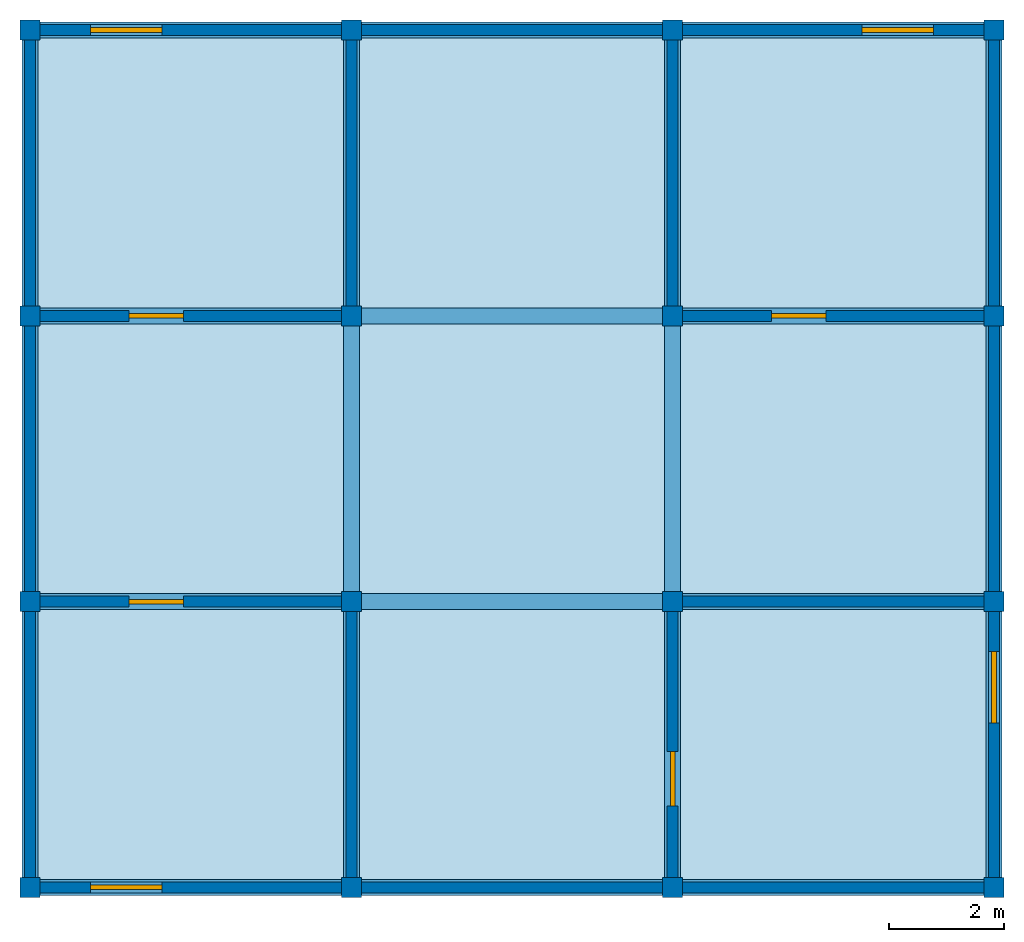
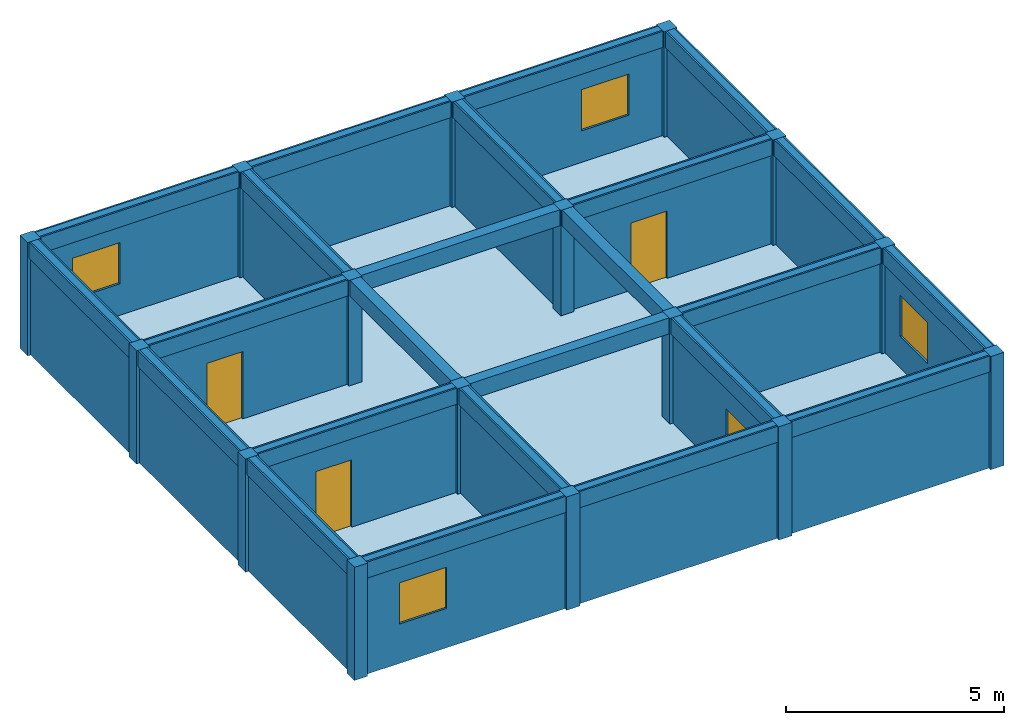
# One storey: 24 beams, 20 walls, 16 columns, 4 doors, 4 windows, 1 slab, 8 openings.
"""IFC4X3 building model written with IfcOpenShell, lengths in metres."""

from ifc_helpers import new_model, si_unit, frame, origin_with_axes, origin_2d, place, context, project, spatial, rectangle, extrude, material, element, fill, save


model = new_model("IFC4X3")

# Units and contexts
model_context = context("Model", 3, precision=1e-05, world=origin_with_axes())
ifc_project = project(units=[si_unit("LENGTHUNIT", "METRE"), si_unit("AREAUNIT", "SQUARE_METRE"), si_unit("VOLUMEUNIT", "CUBIC_METRE")], contexts=[model_context])

# Site, building, storey
site = spatial("IfcSite", under=ifc_project, Name="Puerto Montt Parcel", CompositionType="ELEMENT")
building = spatial("IfcBuilding", under=site, Name="Apex Hub", CompositionType="ELEMENT")
storey = spatial("IfcBuildingStorey", under=building, Name="Level 4", CompositionType="ELEMENT", Elevation=9.5)

# Columns
ifc_material_1 = material(Name="Concrete")
column_1_placement = place(None, frame((-8.415, -7.485, 9.502), z_axis=(0.0, 0.0, 1.0), x_axis=(1.0, 0.0, 0.0)))
element("IfcColumn", 1, at=column_1_placement, inside=storey, material=ifc_material_1, Name="Column 4.1", ObjectType="Core Column", PredefinedType="PILASTER", context=model_context, shape_type="SweptSolid", body=[
    extrude(rectangle(XDim=0.35, YDim=0.35, at=origin_2d()), origin_with_axes(), (0.0, 0.0, 1.0), 3.167),
])
column_2_placement = place(None, frame((-8.415, -2.495, 9.502), z_axis=(0.0, 0.0, 1.0), x_axis=(1.0, 0.0, 0.0)))
element("IfcColumn", 2, at=column_2_placement, inside=storey, material=ifc_material_1, Name="Column 4.2", ObjectType="Facade Column", PredefinedType="NOTDEFINED", context=model_context, shape_type="SweptSolid", body=[
    extrude(rectangle(XDim=0.35, YDim=0.35, at=origin_2d()), origin_with_axes(), (0.0, 0.0, 1.0), 3.167),
])
column_3_placement = place(None, frame((-8.415, 2.495, 9.502), z_axis=(0.0, 0.0, 1.0), x_axis=(1.0, 0.0, 0.0)))
element("IfcColumn", 3, at=column_3_placement, inside=storey, material=ifc_material_1, Name="Column 4.3", ObjectType="Core Column", PredefinedType="COLUMN", context=model_context, shape_type="SweptSolid", body=[
    extrude(rectangle(XDim=0.35, YDim=0.35, at=origin_2d()), origin_with_axes(), (0.0, 0.0, 1.0), 3.167),
])
column_4_placement = place(None, frame((-8.415, 7.485, 9.502), z_axis=(0.0, 0.0, 1.0), x_axis=(1.0, 0.0, 0.0)))
element("IfcColumn", 4, at=column_4_placement, inside=storey, material=ifc_material_1, Name="Column 4.4", ObjectType="Core Column", PredefinedType="USERDEFINED", context=model_context, shape_type="SweptSolid", body=[
    extrude(rectangle(XDim=0.35, YDim=0.35, at=origin_2d()), origin_with_axes(), (0.0, 0.0, 1.0), 3.167),
])
column_5_placement = place(None, frame((-2.805, -7.485, 9.502), z_axis=(0.0, 0.0, 1.0), x_axis=(1.0, 0.0, 0.0)))
element("IfcColumn", 5, at=column_5_placement, inside=storey, material=ifc_material_1, Name="Column 4.5", ObjectType="Core Column", PredefinedType="COLUMN", context=model_context, shape_type="SweptSolid", body=[
    extrude(rectangle(XDim=0.35, YDim=0.35, at=origin_2d()), origin_with_axes(), (0.0, 0.0, 1.0), 3.167),
])
column_6_placement = place(None, frame((-2.805, -2.495, 9.502), z_axis=(0.0, 0.0, 1.0), x_axis=(1.0, 0.0, 0.0)))
element("IfcColumn", 6, at=column_6_placement, inside=storey, material=ifc_material_1, Name="Column 4.6", ObjectType="Corner Column", PredefinedType="NOTDEFINED", context=model_context, shape_type="SweptSolid", body=[
    extrude(rectangle(XDim=0.35, YDim=0.35, at=origin_2d()), origin_with_axes(), (0.0, 0.0, 1.0), 3.167),
])
column_7_placement = place(None, frame((-2.805, 2.495, 9.502), z_axis=(0.0, 0.0, 1.0), x_axis=(1.0, 0.0, 0.0)))
element("IfcColumn", 7, at=column_7_placement, inside=storey, material=ifc_material_1, Name="Column 4.7", ObjectType="Corner Column", PredefinedType="PILASTER", context=model_context, shape_type="SweptSolid", body=[
    extrude(rectangle(XDim=0.35, YDim=0.35, at=origin_2d()), origin_with_axes(), (0.0, 0.0, 1.0), 3.167),
])
column_8_placement = place(None, frame((-2.805, 7.485, 9.502), z_axis=(0.0, 0.0, 1.0), x_axis=(1.0, 0.0, 0.0)))
element("IfcColumn", 8, at=column_8_placement, inside=storey, material=ifc_material_1, Name="Column 4.8", ObjectType="Corner Column", PredefinedType="COLUMN", context=model_context, shape_type="SweptSolid", body=[
    extrude(rectangle(XDim=0.35, YDim=0.35, at=origin_2d()), origin_with_axes(), (0.0, 0.0, 1.0), 3.167),
])
column_9_placement = place(None, frame((2.805, -7.485, 9.502), z_axis=(0.0, 0.0, 1.0), x_axis=(1.0, 0.0, 0.0)))
element("IfcColumn", 9, at=column_9_placement, inside=storey, material=ifc_material_1, Name="Column 4.9", ObjectType="Structural Column", PredefinedType="USERDEFINED", context=model_context, shape_type="SweptSolid", body=[
    extrude(rectangle(XDim=0.35, YDim=0.35, at=origin_2d()), origin_with_axes(), (0.0, 0.0, 1.0), 3.167),
])
column_10_placement = place(None, frame((2.805, -2.495, 9.502), z_axis=(0.0, 0.0, 1.0), x_axis=(1.0, 0.0, 0.0)))
element("IfcColumn", 10, at=column_10_placement, inside=storey, material=ifc_material_1, Name="Column 4.10", ObjectType="Core Column", PredefinedType="NOTDEFINED", context=model_context, shape_type="SweptSolid", body=[
    extrude(rectangle(XDim=0.35, YDim=0.35, at=origin_2d()), origin_with_axes(), (0.0, 0.0, 1.0), 3.167),
])
column_11_placement = place(None, frame((2.805, 2.495, 9.502), z_axis=(0.0, 0.0, 1.0), x_axis=(1.0, 0.0, 0.0)))
element("IfcColumn", 11, at=column_11_placement, inside=storey, material=ifc_material_1, Name="Column 4.11", ObjectType="Corner Column", PredefinedType="NOTDEFINED", context=model_context, shape_type="SweptSolid", body=[
    extrude(rectangle(XDim=0.35, YDim=0.35, at=origin_2d()), origin_with_axes(), (0.0, 0.0, 1.0), 3.167),
])
column_12_placement = place(None, frame((2.805, 7.485, 9.502), z_axis=(0.0, 0.0, 1.0), x_axis=(1.0, 0.0, 0.0)))
element("IfcColumn", 12, at=column_12_placement, inside=storey, material=ifc_material_1, Name="Column 4.12", ObjectType="Corner Column", PredefinedType="COLUMN", context=model_context, shape_type="SweptSolid", body=[
    extrude(rectangle(XDim=0.35, YDim=0.35, at=origin_2d()), origin_with_axes(), (0.0, 0.0, 1.0), 3.167),
])
column_13_placement = place(None, frame((8.415, -7.485, 9.502), z_axis=(0.0, 0.0, 1.0), x_axis=(1.0, 0.0, 0.0)))
element("IfcColumn", 13, at=column_13_placement, inside=storey, material=ifc_material_1, Name="Column 4.13", ObjectType="Corner Column", PredefinedType="NOTDEFINED", context=model_context, shape_type="SweptSolid", body=[
    extrude(rectangle(XDim=0.35, YDim=0.35, at=origin_2d()), origin_with_axes(), (0.0, 0.0, 1.0), 3.167),
])
column_14_placement = place(None, frame((8.415, -2.495, 9.502), z_axis=(0.0, 0.0, 1.0), x_axis=(1.0, 0.0, 0.0)))
element("IfcColumn", 14, at=column_14_placement, inside=storey, material=ifc_material_1, Name="Column 4.14", ObjectType="Facade Column", PredefinedType="USERDEFINED", context=model_context, shape_type="SweptSolid", body=[
    extrude(rectangle(XDim=0.35, YDim=0.35, at=origin_2d()), origin_with_axes(), (0.0, 0.0, 1.0), 3.167),
])
column_15_placement = place(None, frame((8.415, 2.495, 9.502), z_axis=(0.0, 0.0, 1.0), x_axis=(1.0, 0.0, 0.0)))
element("IfcColumn", 15, at=column_15_placement, inside=storey, material=ifc_material_1, Name="Column 4.15", ObjectType="Core Column", PredefinedType="PILASTER", context=model_context, shape_type="SweptSolid", body=[
    extrude(rectangle(XDim=0.35, YDim=0.35, at=origin_2d()), origin_with_axes(), (0.0, 0.0, 1.0), 3.167),
])
column_16_placement = place(None, frame((8.415, 7.485, 9.502), z_axis=(0.0, 0.0, 1.0), x_axis=(1.0, 0.0, 0.0)))
element("IfcColumn", 16, at=column_16_placement, inside=storey, material=ifc_material_1, Name="Column 4.16", ObjectType="Facade Column", PredefinedType="COLUMN", context=model_context, shape_type="SweptSolid", body=[
    extrude(rectangle(XDim=0.35, YDim=0.35, at=origin_2d()), origin_with_axes(), (0.0, 0.0, 1.0), 3.167),
])

# Beams
ifc_material_2 = material(Name="Timber")
beam_1_placement = place(None, frame((-5.61, -7.485, 12.219), z_axis=(0.0, 0.0, 1.0), x_axis=(1.0, 0.0, 0.0)))
element("IfcBeam", 17, at=beam_1_placement, inside=storey, material=ifc_material_2, Name="Beam 4.1", ObjectType="Secondary Beam", PredefinedType="LINTEL", context=model_context, shape_type="SweptSolid", body=[
    extrude(rectangle(XDim=5.61, YDim=0.28, at=origin_2d()), origin_with_axes(), (0.0, 0.0, 1.0), 0.45),
])
beam_2_placement = place(None, frame((0.0, -7.485, 12.219), z_axis=(0.0, 0.0, 1.0), x_axis=(1.0, 0.0, 0.0)))
element("IfcBeam", 18, at=beam_2_placement, inside=storey, material=ifc_material_2, Name="Beam 4.2", ObjectType="Secondary Beam", PredefinedType="JOIST", context=model_context, shape_type="SweptSolid", body=[
    extrude(rectangle(XDim=5.61, YDim=0.28, at=origin_2d()), origin_with_axes(), (0.0, 0.0, 1.0), 0.45),
])
beam_3_placement = place(None, frame((5.61, -7.485, 12.219), z_axis=(0.0, 0.0, 1.0), x_axis=(1.0, 0.0, 0.0)))
element("IfcBeam", 19, at=beam_3_placement, inside=storey, material=ifc_material_2, Name="Beam 4.3", ObjectType="Secondary Beam", PredefinedType="SPANDREL", context=model_context, shape_type="SweptSolid", body=[
    extrude(rectangle(XDim=5.61, YDim=0.28, at=origin_2d()), origin_with_axes(), (0.0, 0.0, 1.0), 0.45),
])
beam_4_placement = place(None, frame((-5.61, -2.495, 12.219), z_axis=(0.0, 0.0, 1.0), x_axis=(1.0, 0.0, 0.0)))
element("IfcBeam", 20, at=beam_4_placement, inside=storey, material=ifc_material_2, Name="Beam 4.4", ObjectType="Secondary Beam", PredefinedType="NOTDEFINED", context=model_context, shape_type="SweptSolid", body=[
    extrude(rectangle(XDim=5.61, YDim=0.28, at=origin_2d()), origin_with_axes(), (0.0, 0.0, 1.0), 0.45),
])
beam_5_placement = place(None, frame((0.0, -2.495, 12.219), z_axis=(0.0, 0.0, 1.0), x_axis=(1.0, 0.0, 0.0)))
element("IfcBeam", 21, at=beam_5_placement, inside=storey, material=ifc_material_2, Name="Beam 4.5", ObjectType="Transfer Beam", PredefinedType="JOIST", context=model_context, shape_type="SweptSolid", body=[
    extrude(rectangle(XDim=5.61, YDim=0.28, at=origin_2d()), origin_with_axes(), (0.0, 0.0, 1.0), 0.45),
])
beam_6_placement = place(None, frame((5.61, -2.495, 12.219), z_axis=(0.0, 0.0, 1.0), x_axis=(1.0, 0.0, 0.0)))
element("IfcBeam", 22, at=beam_6_placement, inside=storey, material=ifc_material_2, Name="Beam 4.6", ObjectType="Secondary Beam", PredefinedType="NOTDEFINED", context=model_context, shape_type="SweptSolid", body=[
    extrude(rectangle(XDim=5.61, YDim=0.28, at=origin_2d()), origin_with_axes(), (0.0, 0.0, 1.0), 0.45),
])
beam_7_placement = place(None, frame((-5.61, 2.495, 12.219), z_axis=(0.0, 0.0, 1.0), x_axis=(1.0, 0.0, 0.0)))
element("IfcBeam", 23, at=beam_7_placement, inside=storey, material=ifc_material_2, Name="Beam 4.7", ObjectType="Secondary Beam", PredefinedType="HOLLOWCORE", context=model_context, shape_type="SweptSolid", body=[
    extrude(rectangle(XDim=5.61, YDim=0.28, at=origin_2d()), origin_with_axes(), (0.0, 0.0, 1.0), 0.45),
])
beam_8_placement = place(None, frame((0.0, 2.495, 12.219), z_axis=(0.0, 0.0, 1.0), x_axis=(1.0, 0.0, 0.0)))
element("IfcBeam", 24, at=beam_8_placement, inside=storey, material=ifc_material_2, Name="Beam 4.8", ObjectType="Transfer Beam", PredefinedType="T_BEAM", context=model_context, shape_type="SweptSolid", body=[
    extrude(rectangle(XDim=5.61, YDim=0.28, at=origin_2d()), origin_with_axes(), (0.0, 0.0, 1.0), 0.45),
])
beam_9_placement = place(None, frame((5.61, 2.495, 12.219), z_axis=(0.0, 0.0, 1.0), x_axis=(1.0, 0.0, 0.0)))
element("IfcBeam", 25, at=beam_9_placement, inside=storey, material=ifc_material_2, Name="Beam 4.9", ObjectType="Ridge Beam", PredefinedType="JOIST", context=model_context, shape_type="SweptSolid", body=[
    extrude(rectangle(XDim=5.61, YDim=0.28, at=origin_2d()), origin_with_axes(), (0.0, 0.0, 1.0), 0.45),
])
beam_10_placement = place(None, frame((-5.61, 7.485, 12.219), z_axis=(0.0, 0.0, 1.0), x_axis=(1.0, 0.0, 0.0)))
element("IfcBeam", 26, at=beam_10_placement, inside=storey, material=ifc_material_2, Name="Beam 4.10", ObjectType="Rafter Beam", PredefinedType="BEAM", context=model_context, shape_type="SweptSolid", body=[
    extrude(rectangle(XDim=5.61, YDim=0.28, at=origin_2d()), origin_with_axes(), (0.0, 0.0, 1.0), 0.45),
])
beam_11_placement = place(None, frame((0.0, 7.485, 12.219), z_axis=(0.0, 0.0, 1.0), x_axis=(1.0, 0.0, 0.0)))
element("IfcBeam", 27, at=beam_11_placement, inside=storey, material=ifc_material_2, Name="Beam 4.11", ObjectType="Primary Beam", PredefinedType="T_BEAM", context=model_context, shape_type="SweptSolid", body=[
    extrude(rectangle(XDim=5.61, YDim=0.28, at=origin_2d()), origin_with_axes(), (0.0, 0.0, 1.0), 0.45),
])
beam_12_placement = place(None, frame((5.61, 7.485, 12.219), z_axis=(0.0, 0.0, 1.0), x_axis=(1.0, 0.0, 0.0)))
element("IfcBeam", 28, at=beam_12_placement, inside=storey, material=ifc_material_2, Name="Beam 4.12", ObjectType="Secondary Beam", PredefinedType="USERDEFINED", context=model_context, shape_type="SweptSolid", body=[
    extrude(rectangle(XDim=5.61, YDim=0.28, at=origin_2d()), origin_with_axes(), (0.0, 0.0, 1.0), 0.45),
])
beam_13_placement = place(None, frame((-8.415, -4.99, 12.219), z_axis=(0.0, 0.0, 1.0), x_axis=(0.0, 1.0, 0.0)))
element("IfcBeam", 29, at=beam_13_placement, inside=storey, material=ifc_material_2, Name="Beam 4.13", ObjectType="Primary Beam", PredefinedType="HOLLOWCORE", context=model_context, shape_type="SweptSolid", body=[
    extrude(rectangle(XDim=4.99, YDim=0.28, at=origin_2d()), origin_with_axes(), (0.0, 0.0, 1.0), 0.45),
])
beam_14_placement = place(None, frame((-8.415, 0.0, 12.219), z_axis=(0.0, 0.0, 1.0), x_axis=(0.0, 1.0, 0.0)))
element("IfcBeam", 30, at=beam_14_placement, inside=storey, material=ifc_material_2, Name="Beam 4.14", ObjectType="Ridge Beam", PredefinedType="JOIST", context=model_context, shape_type="SweptSolid", body=[
    extrude(rectangle(XDim=4.99, YDim=0.28, at=origin_2d()), origin_with_axes(), (0.0, 0.0, 1.0), 0.45),
])
beam_15_placement = place(None, frame((-8.415, 4.99, 12.219), z_axis=(0.0, 0.0, 1.0), x_axis=(0.0, 1.0, 0.0)))
element("IfcBeam", 31, at=beam_15_placement, inside=storey, material=ifc_material_2, Name="Beam 4.15", ObjectType="Secondary Beam", PredefinedType="JOIST", context=model_context, shape_type="SweptSolid", body=[
    extrude(rectangle(XDim=4.99, YDim=0.28, at=origin_2d()), origin_with_axes(), (0.0, 0.0, 1.0), 0.45),
])
beam_16_placement = place(None, frame((-2.805, -4.99, 12.219), z_axis=(0.0, 0.0, 1.0), x_axis=(0.0, 1.0, 0.0)))
element("IfcBeam", 32, at=beam_16_placement, inside=storey, material=ifc_material_2, Name="Beam 4.16", ObjectType="Rafter Beam", PredefinedType="BEAM", context=model_context, shape_type="SweptSolid", body=[
    extrude(rectangle(XDim=4.99, YDim=0.28, at=origin_2d()), origin_with_axes(), (0.0, 0.0, 1.0), 0.45),
])
beam_17_placement = place(None, frame((-2.805, 0.0, 12.219), z_axis=(0.0, 0.0, 1.0), x_axis=(0.0, 1.0, 0.0)))
element("IfcBeam", 33, at=beam_17_placement, inside=storey, material=ifc_material_2, Name="Beam 4.17", ObjectType="Ridge Beam", PredefinedType="JOIST", context=model_context, shape_type="SweptSolid", body=[
    extrude(rectangle(XDim=4.99, YDim=0.28, at=origin_2d()), origin_with_axes(), (0.0, 0.0, 1.0), 0.45),
])
beam_18_placement = place(None, frame((-2.805, 4.99, 12.219), z_axis=(0.0, 0.0, 1.0), x_axis=(0.0, 1.0, 0.0)))
element("IfcBeam", 34, at=beam_18_placement, inside=storey, material=ifc_material_2, Name="Beam 4.18", ObjectType="Ridge Beam", PredefinedType="NOTDEFINED", context=model_context, shape_type="SweptSolid", body=[
    extrude(rectangle(XDim=4.99, YDim=0.28, at=origin_2d()), origin_with_axes(), (0.0, 0.0, 1.0), 0.45),
])
beam_19_placement = place(None, frame((2.805, -4.99, 12.219), z_axis=(0.0, 0.0, 1.0), x_axis=(0.0, 1.0, 0.0)))
element("IfcBeam", 35, at=beam_19_placement, inside=storey, material=ifc_material_2, Name="Beam 4.19", ObjectType="Primary Beam", PredefinedType="HOLLOWCORE", context=model_context, shape_type="SweptSolid", body=[
    extrude(rectangle(XDim=4.99, YDim=0.28, at=origin_2d()), origin_with_axes(), (0.0, 0.0, 1.0), 0.45),
])
beam_20_placement = place(None, frame((2.805, 0.0, 12.219), z_axis=(0.0, 0.0, 1.0), x_axis=(0.0, 1.0, 0.0)))
element("IfcBeam", 36, at=beam_20_placement, inside=storey, material=ifc_material_2, Name="Beam 4.20", ObjectType="Primary Beam", PredefinedType="USERDEFINED", context=model_context, shape_type="SweptSolid", body=[
    extrude(rectangle(XDim=4.99, YDim=0.28, at=origin_2d()), origin_with_axes(), (0.0, 0.0, 1.0), 0.45),
])
beam_21_placement = place(None, frame((2.805, 4.99, 12.219), z_axis=(0.0, 0.0, 1.0), x_axis=(0.0, 1.0, 0.0)))
element("IfcBeam", 37, at=beam_21_placement, inside=storey, material=ifc_material_2, Name="Beam 4.21", ObjectType="Secondary Beam", PredefinedType="NOTDEFINED", context=model_context, shape_type="SweptSolid", body=[
    extrude(rectangle(XDim=4.99, YDim=0.28, at=origin_2d()), origin_with_axes(), (0.0, 0.0, 1.0), 0.45),
])
beam_22_placement = place(None, frame((8.415, -4.99, 12.219), z_axis=(0.0, 0.0, 1.0), x_axis=(0.0, 1.0, 0.0)))
element("IfcBeam", 38, at=beam_22_placement, inside=storey, material=ifc_material_2, Name="Beam 4.22", ObjectType="Rafter Beam", PredefinedType="JOIST", context=model_context, shape_type="SweptSolid", body=[
    extrude(rectangle(XDim=4.99, YDim=0.28, at=origin_2d()), origin_with_axes(), (0.0, 0.0, 1.0), 0.45),
])
beam_23_placement = place(None, frame((8.415, 0.0, 12.219), z_axis=(0.0, 0.0, 1.0), x_axis=(0.0, 1.0, 0.0)))
element("IfcBeam", 39, at=beam_23_placement, inside=storey, material=ifc_material_2, Name="Beam 4.23", ObjectType="Primary Beam", PredefinedType="JOIST", context=model_context, shape_type="SweptSolid", body=[
    extrude(rectangle(XDim=4.99, YDim=0.28, at=origin_2d()), origin_with_axes(), (0.0, 0.0, 1.0), 0.45),
])
beam_24_placement = place(None, frame((8.415, 4.99, 12.219), z_axis=(0.0, 0.0, 1.0), x_axis=(0.0, 1.0, 0.0)))
element("IfcBeam", 40, at=beam_24_placement, inside=storey, material=ifc_material_2, Name="Beam 4.24", ObjectType="Transfer Beam", PredefinedType="NOTDEFINED", context=model_context, shape_type="SweptSolid", body=[
    extrude(rectangle(XDim=4.99, YDim=0.28, at=origin_2d()), origin_with_axes(), (0.0, 0.0, 1.0), 0.45),
])

# Slab
slab_placement = place(None, frame((0.0, 0.0, 9.5), z_axis=(0.0, 0.0, 1.0), x_axis=(1.0, 0.0, 0.0)))
element("IfcSlab", 41, at=slab_placement, inside=storey, material=ifc_material_2, Name="Slab 4", ObjectType="Floor Slab", PredefinedType="FLOOR", context=model_context, shape_type="SweptSolid", body=[
    extrude(rectangle(XDim=16.83, YDim=14.97, at=origin_2d()), origin_with_axes(), (0.0, 0.0, 1.0), 0.22),
])

# Wall, opening, door
ifc_material_3 = material(Name="Gypsum")
wall_1_placement = place(None, frame((-5.61, -2.495, 9.502), z_axis=(0.0, 0.0, 1.0), x_axis=(1.0, 0.0, 0.0)))
wall_1 = element("IfcWall", 42, at=wall_1_placement, inside=storey, material=ifc_material_3, Name="Wall 4.1", ObjectType="Corridor Partition", PredefinedType="MOVABLE", context=model_context, shape_type="SweptSolid", body=[
    extrude(rectangle(XDim=5.61, YDim=0.189481, at=origin_2d()), origin_with_axes(), (0.0, 0.0, 1.0), 3.167),
])
opening_1_placement = place(None, frame((-6.21, -2.495, 9.502), z_axis=(0.0, 0.0, 1.0), x_axis=(1.0, 0.0, 0.0)))
opening_1 = element("IfcOpeningElement", 43, at=opening_1_placement, cuts=wall_1, Name="Door opening 4.1", ObjectType="Door Opening", PredefinedType="OPENING", context=model_context, shape_type="SweptSolid", body=[
    extrude(rectangle(XDim=0.95, YDim=0.269481, at=origin_2d()), origin_with_axes(), (0.0, 0.0, 1.0), 2.1),
])
door_1_placement = place(None, frame((-6.21, -2.495, 9.502), z_axis=(0.0, 0.0, 1.0), x_axis=(1.0, 0.0, 0.0)))
door_1 = element("IfcDoor", 44, at=door_1_placement, inside=storey, Name="Door 4.1", ObjectType="Entry Door", OverallHeight=2.1, OverallWidth=0.95, context=model_context, shape_type="SweptSolid", body=[
    extrude(rectangle(XDim=0.95, YDim=0.08, at=origin_2d()), origin_with_axes(), (0.0, 0.0, 1.0), 2.1),
])
fill(opening_1, door_1)

# Wall
ifc_material_4 = material(Name="Brick")
wall_2_placement = place(None, frame((-2.805, -4.99, 9.502), z_axis=(0.0, 0.0, 1.0), x_axis=(0.0, 1.0, 0.0)))
element("IfcWall", 45, at=wall_2_placement, inside=storey, material=ifc_material_4, Name="Wall 4.2", ObjectType="Corridor Partition", PredefinedType="MOVABLE", context=model_context, shape_type="SweptSolid", body=[
    extrude(rectangle(XDim=4.99, YDim=0.189481, at=origin_2d()), origin_with_axes(), (0.0, 0.0, 1.0), 3.167),
])

# Wall, opening, window
wall_3_placement = place(None, frame((-5.61, -7.485, 9.502), z_axis=(0.0, 0.0, 1.0), x_axis=(1.0, 0.0, 0.0)))
wall_3 = element("IfcWall", 46, at=wall_3_placement, inside=storey, material=ifc_material_4, Name="Wall 4.3", ObjectType="Exterior Wall", PredefinedType="SOLIDWALL", context=model_context, shape_type="SweptSolid", body=[
    extrude(rectangle(XDim=5.61, YDim=0.189481, at=origin_2d()), origin_with_axes(), (0.0, 0.0, 1.0), 3.167),
])
opening_2_placement = place(None, frame((-6.732, -7.485, 10.602), z_axis=(0.0, 0.0, 1.0), x_axis=(1.0, 0.0, 0.0)))
opening_2 = element("IfcOpeningElement", 47, at=opening_2_placement, cuts=wall_3, Name="Window opening 4.2", ObjectType="Window Opening", PredefinedType="OPENING", context=model_context, shape_type="SweptSolid", body=[
    extrude(rectangle(XDim=1.25, YDim=0.269481, at=origin_2d()), origin_with_axes(), (0.0, 0.0, 1.0), 1.15),
])
window_1_placement = place(None, frame((-6.732, -7.485, 10.602), z_axis=(0.0, 0.0, 1.0), x_axis=(1.0, 0.0, 0.0)))
window_1 = element("IfcWindow", 48, at=window_1_placement, inside=storey, Name="Window 4.2", ObjectType="Sliding Window", OverallHeight=1.15, OverallWidth=1.25, context=model_context, shape_type="SweptSolid", body=[
    extrude(rectangle(XDim=1.25, YDim=0.08, at=origin_2d()), origin_with_axes(), (0.0, 0.0, 1.0), 1.15),
])
fill(opening_2, window_1)

# Wall
wall_4_placement = place(None, frame((-8.415, -4.99, 9.502), z_axis=(0.0, 0.0, 1.0), x_axis=(0.0, 1.0, 0.0)))
element("IfcWall", 49, at=wall_4_placement, inside=storey, material=ifc_material_3, Name="Wall 4.4", ObjectType="Exterior Wall", PredefinedType="STANDARD", context=model_context, shape_type="SweptSolid", body=[
    extrude(rectangle(XDim=4.99, YDim=0.189481, at=origin_2d()), origin_with_axes(), (0.0, 0.0, 1.0), 3.167),
])

# Wall, opening, door
wall_5_placement = place(None, frame((2.805, -4.99, 9.502), z_axis=(0.0, 0.0, 1.0), x_axis=(0.0, 1.0, 0.0)))
wall_5 = element("IfcWall", 50, at=wall_5_placement, inside=storey, material=ifc_material_1, Name="Wall 4.5", ObjectType="Corridor Partition", PredefinedType="SOLIDWALL", context=model_context, shape_type="SweptSolid", body=[
    extrude(rectangle(XDim=4.99, YDim=0.189481, at=origin_2d()), origin_with_axes(), (0.0, 0.0, 1.0), 3.167),
])
opening_3_placement = place(None, frame((2.805, -5.59, 9.502), z_axis=(0.0, 0.0, 1.0), x_axis=(0.0, 1.0, 0.0)))
opening_3 = element("IfcOpeningElement", 51, at=opening_3_placement, cuts=wall_5, Name="Door opening 4.3", ObjectType="Door Opening", PredefinedType="OPENING", context=model_context, shape_type="SweptSolid", body=[
    extrude(rectangle(XDim=0.95, YDim=0.269481, at=origin_2d()), origin_with_axes(), (0.0, 0.0, 1.0), 2.1),
])
door_2_placement = place(None, frame((2.805, -5.59, 9.502), z_axis=(0.0, 0.0, 1.0), x_axis=(0.0, 1.0, 0.0)))
door_2 = element("IfcDoor", 52, at=door_2_placement, inside=storey, Name="Door 4.3", ObjectType="Interior Door", OverallHeight=2.1, OverallWidth=0.95, context=model_context, shape_type="SweptSolid", body=[
    extrude(rectangle(XDim=0.95, YDim=0.08, at=origin_2d()), origin_with_axes(), (0.0, 0.0, 1.0), 2.1),
])
fill(opening_3, door_2)

# Walls
ifc_material_5 = material(Name="CLT")
wall_6_placement = place(None, frame((0.0, -7.485, 9.502), z_axis=(0.0, 0.0, 1.0), x_axis=(1.0, 0.0, 0.0)))
element("IfcWall", 53, at=wall_6_placement, inside=storey, material=ifc_material_5, Name="Wall 4.6", ObjectType="Exterior Wall", PredefinedType="PLUMBINGWALL", context=model_context, shape_type="SweptSolid", body=[
    extrude(rectangle(XDim=5.61, YDim=0.189481, at=origin_2d()), origin_with_axes(), (0.0, 0.0, 1.0), 3.167),
])
wall_7_placement = place(None, frame((5.61, -2.495, 9.502), z_axis=(0.0, 0.0, 1.0), x_axis=(1.0, 0.0, 0.0)))
element("IfcWall", 54, at=wall_7_placement, inside=storey, material=ifc_material_1, Name="Wall 4.7", ObjectType="Corridor Partition", PredefinedType="PARTITIONING", context=model_context, shape_type="SweptSolid", body=[
    extrude(rectangle(XDim=5.61, YDim=0.189481, at=origin_2d()), origin_with_axes(), (0.0, 0.0, 1.0), 3.167),
])

# Wall, opening, window
wall_8_placement = place(None, frame((8.415, -4.99, 9.502), z_axis=(0.0, 0.0, 1.0), x_axis=(0.0, 1.0, 0.0)))
wall_8 = element("IfcWall", 55, at=wall_8_placement, inside=storey, material=ifc_material_5, Name="Wall 4.8", ObjectType="Exterior Wall", PredefinedType="POLYGONAL", context=model_context, shape_type="SweptSolid", body=[
    extrude(rectangle(XDim=4.99, YDim=0.189481, at=origin_2d()), origin_with_axes(), (0.0, 0.0, 1.0), 3.167),
])
opening_4_placement = place(None, frame((8.415, -3.992, 10.602), z_axis=(0.0, 0.0, 1.0), x_axis=(0.0, 1.0, 0.0)))
opening_4 = element("IfcOpeningElement", 56, at=opening_4_placement, cuts=wall_8, Name="Window opening 4.4", ObjectType="Window Opening", PredefinedType="OPENING", context=model_context, shape_type="SweptSolid", body=[
    extrude(rectangle(XDim=1.25, YDim=0.269481, at=origin_2d()), origin_with_axes(), (0.0, 0.0, 1.0), 1.15),
])
window_2_placement = place(None, frame((8.415, -3.992, 10.602), z_axis=(0.0, 0.0, 1.0), x_axis=(0.0, 1.0, 0.0)))
window_2 = element("IfcWindow", 57, at=window_2_placement, inside=storey, Name="Window 4.4", ObjectType="Louvre Window", OverallHeight=1.15, OverallWidth=1.25, context=model_context, shape_type="SweptSolid", body=[
    extrude(rectangle(XDim=1.25, YDim=0.08, at=origin_2d()), origin_with_axes(), (0.0, 0.0, 1.0), 1.15),
])
fill(opening_4, window_2)

# Wall
wall_9_placement = place(None, frame((5.61, -7.485, 9.502), z_axis=(0.0, 0.0, 1.0), x_axis=(1.0, 0.0, 0.0)))
element("IfcWall", 58, at=wall_9_placement, inside=storey, material=ifc_material_3, Name="Wall 4.9", ObjectType="Exterior Wall", PredefinedType="ELEMENTEDWALL", context=model_context, shape_type="SweptSolid", body=[
    extrude(rectangle(XDim=5.61, YDim=0.189481, at=origin_2d()), origin_with_axes(), (0.0, 0.0, 1.0), 3.167),
])

# Wall, opening, door
wall_10_placement = place(None, frame((-5.61, 2.495, 9.502), z_axis=(0.0, 0.0, 1.0), x_axis=(1.0, 0.0, 0.0)))
wall_10 = element("IfcWall", 59, at=wall_10_placement, inside=storey, material=ifc_material_4, Name="Wall 4.10", ObjectType="Corridor Partition", PredefinedType="SHEAR", context=model_context, shape_type="SweptSolid", body=[
    extrude(rectangle(XDim=5.61, YDim=0.189481, at=origin_2d()), origin_with_axes(), (0.0, 0.0, 1.0), 3.167),
])
opening_5_placement = place(None, frame((-6.21, 2.495, 9.502), z_axis=(0.0, 0.0, 1.0), x_axis=(1.0, 0.0, 0.0)))
opening_5 = element("IfcOpeningElement", 60, at=opening_5_placement, cuts=wall_10, Name="Door opening 4.5", ObjectType="Door Opening", PredefinedType="OPENING", context=model_context, shape_type="SweptSolid", body=[
    extrude(rectangle(XDim=0.95, YDim=0.269481, at=origin_2d()), origin_with_axes(), (0.0, 0.0, 1.0), 2.1),
])
door_3_placement = place(None, frame((-6.21, 2.495, 9.502), z_axis=(0.0, 0.0, 1.0), x_axis=(1.0, 0.0, 0.0)))
door_3 = element("IfcDoor", 61, at=door_3_placement, inside=storey, Name="Door 4.5", ObjectType="Entry Door", OverallHeight=2.1, OverallWidth=0.95, context=model_context, shape_type="SweptSolid", body=[
    extrude(rectangle(XDim=0.95, YDim=0.08, at=origin_2d()), origin_with_axes(), (0.0, 0.0, 1.0), 2.1),
])
fill(opening_5, door_3)

# Wall
wall_11_placement = place(None, frame((-8.415, 0.0, 9.502), z_axis=(0.0, 0.0, 1.0), x_axis=(0.0, 1.0, 0.0)))
element("IfcWall", 62, at=wall_11_placement, inside=storey, material=ifc_material_3, Name="Wall 4.11", ObjectType="Exterior Wall", PredefinedType="SOLIDWALL", context=model_context, shape_type="SweptSolid", body=[
    extrude(rectangle(XDim=4.99, YDim=0.189481, at=origin_2d()), origin_with_axes(), (0.0, 0.0, 1.0), 3.167),
])

# Wall, opening, door
wall_12_placement = place(None, frame((5.61, 2.495, 9.502), z_axis=(0.0, 0.0, 1.0), x_axis=(1.0, 0.0, 0.0)))
wall_12 = element("IfcWall", 63, at=wall_12_placement, inside=storey, material=ifc_material_1, Name="Wall 4.12", ObjectType="Corridor Partition", PredefinedType="PARAPET", context=model_context, shape_type="SweptSolid", body=[
    extrude(rectangle(XDim=5.61, YDim=0.189481, at=origin_2d()), origin_with_axes(), (0.0, 0.0, 1.0), 3.167),
])
opening_6_placement = place(None, frame((5.01, 2.495, 9.502), z_axis=(0.0, 0.0, 1.0), x_axis=(1.0, 0.0, 0.0)))
opening_6 = element("IfcOpeningElement", 64, at=opening_6_placement, cuts=wall_12, Name="Door opening 4.7", ObjectType="Door Opening", PredefinedType="OPENING", context=model_context, shape_type="SweptSolid", body=[
    extrude(rectangle(XDim=0.95, YDim=0.269481, at=origin_2d()), origin_with_axes(), (0.0, 0.0, 1.0), 2.1),
])
door_4_placement = place(None, frame((5.01, 2.495, 9.502), z_axis=(0.0, 0.0, 1.0), x_axis=(1.0, 0.0, 0.0)))
door_4 = element("IfcDoor", 65, at=door_4_placement, inside=storey, Name="Door 4.7", ObjectType="Entry Door", OverallHeight=2.1, OverallWidth=0.95, context=model_context, shape_type="SweptSolid", body=[
    extrude(rectangle(XDim=0.95, YDim=0.08, at=origin_2d()), origin_with_axes(), (0.0, 0.0, 1.0), 2.1),
])
fill(opening_6, door_4)

# Wall
wall_13_placement = place(None, frame((8.415, 0.0, 9.502), z_axis=(0.0, 0.0, 1.0), x_axis=(0.0, 1.0, 0.0)))
element("IfcWall", 66, at=wall_13_placement, inside=storey, material=ifc_material_4, Name="Wall 4.13", ObjectType="Exterior Wall", PredefinedType="PARAPET", context=model_context, shape_type="SweptSolid", body=[
    extrude(rectangle(XDim=4.99, YDim=0.189481, at=origin_2d()), origin_with_axes(), (0.0, 0.0, 1.0), 3.167),
])

# Wall, opening, window
wall_14_placement = place(None, frame((-5.61, 7.485, 9.502), z_axis=(0.0, 0.0, 1.0), x_axis=(1.0, 0.0, 0.0)))
wall_14 = element("IfcWall", 67, at=wall_14_placement, inside=storey, material=ifc_material_1, Name="Wall 4.14", ObjectType="Exterior Wall", PredefinedType="MOVABLE", context=model_context, shape_type="SweptSolid", body=[
    extrude(rectangle(XDim=5.61, YDim=0.189481, at=origin_2d()), origin_with_axes(), (0.0, 0.0, 1.0), 3.167),
])
opening_7_placement = place(None, frame((-6.732, 7.485, 10.602), z_axis=(0.0, 0.0, 1.0), x_axis=(1.0, 0.0, 0.0)))
opening_7 = element("IfcOpeningElement", 68, at=opening_7_placement, cuts=wall_14, Name="Window opening 4.6", ObjectType="Window Opening", PredefinedType="OPENING", context=model_context, shape_type="SweptSolid", body=[
    extrude(rectangle(XDim=1.25, YDim=0.269481, at=origin_2d()), origin_with_axes(), (0.0, 0.0, 1.0), 1.15),
])
window_3_placement = place(None, frame((-6.732, 7.485, 10.602), z_axis=(0.0, 0.0, 1.0), x_axis=(1.0, 0.0, 0.0)))
window_3 = element("IfcWindow", 69, at=window_3_placement, inside=storey, Name="Window 4.6", ObjectType="Sliding Window", OverallHeight=1.15, OverallWidth=1.25, context=model_context, shape_type="SweptSolid", body=[
    extrude(rectangle(XDim=1.25, YDim=0.08, at=origin_2d()), origin_with_axes(), (0.0, 0.0, 1.0), 1.15),
])
fill(opening_7, window_3)

# Walls
wall_15_placement = place(None, frame((-2.805, 4.99, 9.502), z_axis=(0.0, 0.0, 1.0), x_axis=(0.0, 1.0, 0.0)))
element("IfcWall", 70, at=wall_15_placement, inside=storey, material=ifc_material_1, Name="Wall 4.15", ObjectType="Corridor Partition", PredefinedType="STANDARD", context=model_context, shape_type="SweptSolid", body=[
    extrude(rectangle(XDim=4.99, YDim=0.189481, at=origin_2d()), origin_with_axes(), (0.0, 0.0, 1.0), 3.167),
])
wall_16_placement = place(None, frame((-8.415, 4.99, 9.502), z_axis=(0.0, 0.0, 1.0), x_axis=(0.0, 1.0, 0.0)))
element("IfcWall", 71, at=wall_16_placement, inside=storey, material=ifc_material_5, Name="Wall 4.16", ObjectType="Exterior Wall", PredefinedType="PLUMBINGWALL", context=model_context, shape_type="SweptSolid", body=[
    extrude(rectangle(XDim=4.99, YDim=0.189481, at=origin_2d()), origin_with_axes(), (0.0, 0.0, 1.0), 3.167),
])
wall_17_placement = place(None, frame((0.0, 7.485, 9.502), z_axis=(0.0, 0.0, 1.0), x_axis=(1.0, 0.0, 0.0)))
element("IfcWall", 72, at=wall_17_placement, inside=storey, material=ifc_material_4, Name="Wall 4.17", ObjectType="Exterior Wall", PredefinedType="PLUMBINGWALL", context=model_context, shape_type="SweptSolid", body=[
    extrude(rectangle(XDim=5.61, YDim=0.189481, at=origin_2d()), origin_with_axes(), (0.0, 0.0, 1.0), 3.167),
])
wall_18_placement = place(None, frame((2.805, 4.99, 9.502), z_axis=(0.0, 0.0, 1.0), x_axis=(0.0, 1.0, 0.0)))
element("IfcWall", 73, at=wall_18_placement, inside=storey, material=ifc_material_3, Name="Wall 4.18", ObjectType="Corridor Partition", PredefinedType="POLYGONAL", context=model_context, shape_type="SweptSolid", body=[
    extrude(rectangle(XDim=4.99, YDim=0.189481, at=origin_2d()), origin_with_axes(), (0.0, 0.0, 1.0), 3.167),
])

# Wall, opening, window
wall_19_placement = place(None, frame((5.61, 7.485, 9.502), z_axis=(0.0, 0.0, 1.0), x_axis=(1.0, 0.0, 0.0)))
wall_19 = element("IfcWall", 74, at=wall_19_placement, inside=storey, material=ifc_material_3, Name="Wall 4.19", ObjectType="Exterior Wall", PredefinedType="POLYGONAL", context=model_context, shape_type="SweptSolid", body=[
    extrude(rectangle(XDim=5.61, YDim=0.189481, at=origin_2d()), origin_with_axes(), (0.0, 0.0, 1.0), 3.167),
])
opening_8_placement = place(None, frame((6.732, 7.485, 10.602), z_axis=(0.0, 0.0, 1.0), x_axis=(1.0, 0.0, 0.0)))
opening_8 = element("IfcOpeningElement", 75, at=opening_8_placement, cuts=wall_19, Name="Window opening 4.8", ObjectType="Window Opening", PredefinedType="OPENING", context=model_context, shape_type="SweptSolid", body=[
    extrude(rectangle(XDim=1.25, YDim=0.269481, at=origin_2d()), origin_with_axes(), (0.0, 0.0, 1.0), 1.15),
])
window_4_placement = place(None, frame((6.732, 7.485, 10.602), z_axis=(0.0, 0.0, 1.0), x_axis=(1.0, 0.0, 0.0)))
window_4 = element("IfcWindow", 76, at=window_4_placement, inside=storey, Name="Window 4.8", ObjectType="Louvre Window", OverallHeight=1.15, OverallWidth=1.25, context=model_context, shape_type="SweptSolid", body=[
    extrude(rectangle(XDim=1.25, YDim=0.08, at=origin_2d()), origin_with_axes(), (0.0, 0.0, 1.0), 1.15),
])
fill(opening_8, window_4)

# Wall
wall_20_placement = place(None, frame((8.415, 4.99, 9.502), z_axis=(0.0, 0.0, 1.0), x_axis=(0.0, 1.0, 0.0)))
element("IfcWall", 77, at=wall_20_placement, inside=storey, material=ifc_material_1, Name="Wall 4.20", ObjectType="Exterior Wall", PredefinedType="ELEMENTEDWALL", context=model_context, shape_type="SweptSolid", body=[
    extrude(rectangle(XDim=4.99, YDim=0.189481, at=origin_2d()), origin_with_axes(), (0.0, 0.0, 1.0), 3.167),
])

save(model, "model.ifc")
